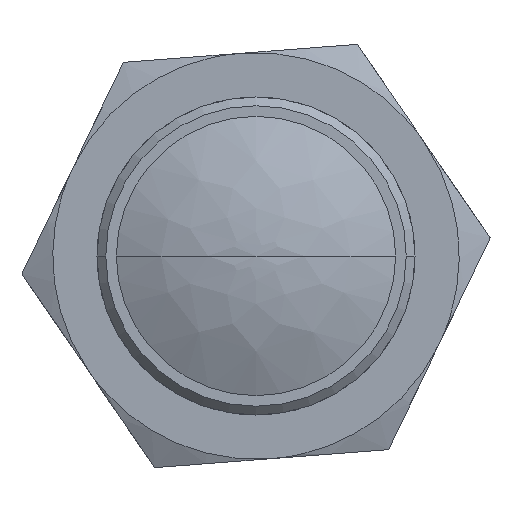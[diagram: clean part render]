
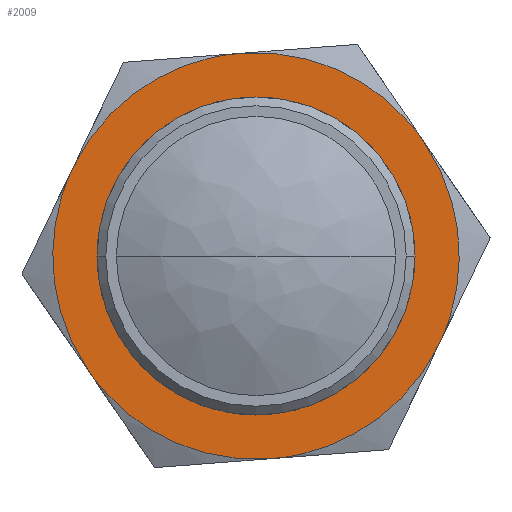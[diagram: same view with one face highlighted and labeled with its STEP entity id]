
A CAD part, left-side view. The second image highlights one B-rep face of the part: STEP entity #2009.
In plain terms, the highlighted planar face has unit normal (-1, 0, 0).
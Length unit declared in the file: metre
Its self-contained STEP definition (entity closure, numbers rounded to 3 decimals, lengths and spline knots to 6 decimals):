
#95 = EDGE_CURVE ( 'NONE', #577, #590, #1790, .T. ) ;
#111 = EDGE_CURVE ( 'NONE', #773, #457, #1897, .T. ) ;
#122 = ORIENTED_EDGE ( 'NONE', *, *, #95, .F. ) ;
#137 = AXIS2_PLACEMENT_3D ( 'NONE', #384, #1457, #540 ) ;
#145 = CARTESIAN_POINT ( 'NONE',  ( -0.0075, 0.008419, 0.023 ) ) ;
#159 = EDGE_CURVE ( 'NONE', #1753, #1993, #792, .T. ) ;
#171 = CIRCLE ( 'NONE', #927, 0.018 ) ;
#206 = ORIENTED_EDGE ( 'NONE', *, *, #1504, .F. ) ;
#220 = PLANE ( 'NONE',  #137 ) ;
#236 = FACE_BOUND ( 'NONE', #293, .T. ) ;
#249 = CARTESIAN_POINT ( 'NONE',  ( -0.0075, 0., 0.023 ) ) ;
#293 = EDGE_LOOP ( 'NONE', ( #1231, #304 ) ) ;
#304 = ORIENTED_EDGE ( 'NONE', *, *, #419, .F. ) ;
#310 = EDGE_CURVE ( 'NONE', #457, #577, #1638, .T. ) ;
#343 = CARTESIAN_POINT ( 'NONE',  ( -0.0075, 0., 0. ) ) ;
#345 = CARTESIAN_POINT ( 'NONE',  ( -0.0075, -0.015708, 0.018793 ) ) ;
#353 = EDGE_LOOP ( 'NONE', ( #206, #608, #122, #1021, #786, #1208 ) ) ;
#384 = CARTESIAN_POINT ( 'NONE',  ( -0.0075, -0.023276, 0.023276 ) ) ;
#395 = CARTESIAN_POINT ( 'NONE',  ( -0.0075, -0.019919, -0.0115 ) ) ;
#419 = EDGE_CURVE ( 'NONE', #1993, #1753, #171, .T. ) ;
#424 = VERTEX_POINT ( 'NONE', #1629 ) ;
#457 = VERTEX_POINT ( 'NONE', #1644 ) ;
#475 = CARTESIAN_POINT ( 'NONE',  ( -0.0075, 0., 0.023 ) ) ;
#494 = CARTESIAN_POINT ( 'NONE',  ( -0.0075, -0.019919, 0.0115 ) ) ;
#499 = DIRECTION ( 'NONE',  ( 0., 1., 0. ) ) ;
#540 = DIRECTION ( 'NONE',  ( 0., 0., -1. ) ) ;
#577 = VERTEX_POINT ( 'NONE', #249 ) ;
#590 = VERTEX_POINT ( 'NONE', #1082 ) ;
#608 = ORIENTED_EDGE ( 'NONE', *, *, #896, .F. ) ;
#635 = CARTESIAN_POINT ( 'NONE',  ( -0.0075, 0.008419, -0.023 ) ) ;
#702 = CARTESIAN_POINT ( 'NONE',  ( -0.0075, -0.008419, -0.023 ) ) ;
#721 = CARTESIAN_POINT ( 'NONE',  ( -0.0075, -0.024128, -0.004209 ) ) ;
#765 = CARTESIAN_POINT ( 'NONE',  ( -0.0075, 0.024128, 0.004209 ) ) ;
#773 = VERTEX_POINT ( 'NONE', #1795 ) ;
#782 = VERTEX_POINT ( 'NONE', #867 ) ;
#786 = ORIENTED_EDGE ( 'NONE', *, *, #111, .F. ) ;
#792 = CIRCLE ( 'NONE', #1217, 0.018 ) ;
#861 = DIRECTION ( 'NONE',  ( -1., 0., 0. ) ) ;
#867 = CARTESIAN_POINT ( 'NONE',  ( -0.0075, 0., -0.023 ) ) ;
#896 = EDGE_CURVE ( 'NONE', #590, #424, #1550, .T. ) ;
#927 = AXIS2_PLACEMENT_3D ( 'NONE', #1789, #861, #1960 ) ;
#939 = CARTESIAN_POINT ( 'NONE',  ( -0.0075, 0., 0.023 ) ) ;
#955 = CARTESIAN_POINT ( 'NONE',  ( -0.0075, 0.019919, -0.0115 ) ) ;
#1021 = ORIENTED_EDGE ( 'NONE', *, *, #310, .F. ) ;
#1082 = CARTESIAN_POINT ( 'NONE',  ( -0.0075, -0.019919, 0.0115 ) ) ;
#1107 =( BOUNDED_CURVE ( )  B_SPLINE_CURVE ( 3, ( #1722, #635, #1889, #955 ),
 .UNSPECIFIED., .F., .T. ) 
 B_SPLINE_CURVE_WITH_KNOTS ( ( 4, 4 ),
 ( 0., 0.023989 ),
 .UNSPECIFIED. ) 
 CURVE ( )  GEOMETRIC_REPRESENTATION_ITEM ( )  RATIONAL_B_SPLINE_CURVE ( ( 0.998, 0.909, 0.909, 0.998 ) ) 
 REPRESENTATION_ITEM ( '' )  );
#1169 = CARTESIAN_POINT ( 'NONE',  ( -0.0075, 0.018, 0. ) ) ;
#1178 =( BOUNDED_CURVE ( )  B_SPLINE_CURVE ( 3, ( #395, #1314, #702, #1797 ),
 .UNSPECIFIED., .F., .F. ) 
 B_SPLINE_CURVE_WITH_KNOTS ( ( 4, 4 ),
 ( 0., 0.023989 ),
 .UNSPECIFIED. ) 
 CURVE ( )  GEOMETRIC_REPRESENTATION_ITEM ( )  RATIONAL_B_SPLINE_CURVE ( ( 0.998, 0.909, 0.909, 0.998 ) ) 
 REPRESENTATION_ITEM ( '' )  );
#1208 = ORIENTED_EDGE ( 'NONE', *, *, #1529, .F. ) ;
#1217 = AXIS2_PLACEMENT_3D ( 'NONE', #343, #1414, #499 ) ;
#1231 = ORIENTED_EDGE ( 'NONE', *, *, #159, .F. ) ;
#1314 = CARTESIAN_POINT ( 'NONE',  ( -0.0075, -0.015709, -0.018791 ) ) ;
#1328 = CARTESIAN_POINT ( 'NONE',  ( -0.0075, -0.019919, 0.0115 ) ) ;
#1375 = CARTESIAN_POINT ( 'NONE',  ( -0.0075, 0.024128, -0.004209 ) ) ;
#1398 = CARTESIAN_POINT ( 'NONE',  ( -0.0075, 0.019919, -0.0115 ) ) ;
#1414 = DIRECTION ( 'NONE',  ( -1., 0., 0. ) ) ;
#1457 = DIRECTION ( 'NONE',  ( 1., 0., 0. ) ) ;
#1504 = EDGE_CURVE ( 'NONE', #424, #782, #1178, .T. ) ;
#1529 = EDGE_CURVE ( 'NONE', #782, #773, #1107, .T. ) ;
#1550 =( BOUNDED_CURVE ( )  B_SPLINE_CURVE ( 3, ( #1328, #1653, #721, #1816 ),
 .UNSPECIFIED., .F., .F. ) 
 B_SPLINE_CURVE_WITH_KNOTS ( ( 4, 4 ),
 ( 0., 0.023989 ),
 .UNSPECIFIED. ) 
 CURVE ( )  GEOMETRIC_REPRESENTATION_ITEM ( )  RATIONAL_B_SPLINE_CURVE ( ( 0.998, 0.909, 0.909, 0.998 ) ) 
 REPRESENTATION_ITEM ( '' )  );
#1629 = CARTESIAN_POINT ( 'NONE',  ( -0.0075, -0.019919, -0.0115 ) ) ;
#1638 =( BOUNDED_CURVE ( )  B_SPLINE_CURVE ( 3, ( #1918, #1741, #145, #939 ),
 .UNSPECIFIED., .F., .F. ) 
 B_SPLINE_CURVE_WITH_KNOTS ( ( 4, 4 ),
 ( 0., 0.023989 ),
 .UNSPECIFIED. ) 
 CURVE ( )  GEOMETRIC_REPRESENTATION_ITEM ( )  RATIONAL_B_SPLINE_CURVE ( ( 0.998, 0.909, 0.909, 0.998 ) ) 
 REPRESENTATION_ITEM ( '' )  );
#1644 = CARTESIAN_POINT ( 'NONE',  ( -0.0075, 0.019919, 0.0115 ) ) ;
#1653 = CARTESIAN_POINT ( 'NONE',  ( -0.0075, -0.024128, 0.004209 ) ) ;
#1691 = CARTESIAN_POINT ( 'NONE',  ( -0.0075, 0.019919, 0.0115 ) ) ;
#1722 = CARTESIAN_POINT ( 'NONE',  ( -0.0075, 0., -0.023 ) ) ;
#1741 = CARTESIAN_POINT ( 'NONE',  ( -0.0075, 0.015709, 0.018791 ) ) ;
#1753 = VERTEX_POINT ( 'NONE', #1169 ) ;
#1789 = CARTESIAN_POINT ( 'NONE',  ( -0.0075, 0., 0. ) ) ;
#1790 =( BOUNDED_CURVE ( )  B_SPLINE_CURVE ( 3, ( #475, #2036, #345, #494 ),
 .UNSPECIFIED., .F., .F. ) 
 B_SPLINE_CURVE_WITH_KNOTS ( ( 4, 4 ),
 ( 0., 0.023989 ),
 .UNSPECIFIED. ) 
 CURVE ( )  GEOMETRIC_REPRESENTATION_ITEM ( )  RATIONAL_B_SPLINE_CURVE ( ( 1., 0.91, 0.91, 0.998 ) ) 
 REPRESENTATION_ITEM ( '' )  );
#1795 = CARTESIAN_POINT ( 'NONE',  ( -0.0075, 0.019919, -0.0115 ) ) ;
#1797 = CARTESIAN_POINT ( 'NONE',  ( -0.0075, 0., -0.023 ) ) ;
#1816 = CARTESIAN_POINT ( 'NONE',  ( -0.0075, -0.019919, -0.0115 ) ) ;
#1889 = CARTESIAN_POINT ( 'NONE',  ( -0.0075, 0.015709, -0.018791 ) ) ;
#1896 = FACE_OUTER_BOUND ( 'NONE', #353, .T. ) ;
#1897 =( BOUNDED_CURVE ( )  B_SPLINE_CURVE ( 3, ( #1398, #1375, #765, #1691 ),
 .UNSPECIFIED., .F., .F. ) 
 B_SPLINE_CURVE_WITH_KNOTS ( ( 4, 4 ),
 ( 0., 0.023989 ),
 .UNSPECIFIED. ) 
 CURVE ( )  GEOMETRIC_REPRESENTATION_ITEM ( )  RATIONAL_B_SPLINE_CURVE ( ( 0.998, 0.909, 0.909, 0.998 ) ) 
 REPRESENTATION_ITEM ( '' )  );
#1918 = CARTESIAN_POINT ( 'NONE',  ( -0.0075, 0.019919, 0.0115 ) ) ;
#1960 = DIRECTION ( 'NONE',  ( 0., 1., 0. ) ) ;
#1968 = CARTESIAN_POINT ( 'NONE',  ( -0.0075, -0.018, 0. ) ) ;
#1993 = VERTEX_POINT ( 'NONE', #1968 ) ;
#2009 = ADVANCED_FACE ( 'NONE', ( #236, #1896 ), #220, .F. ) ;
#2036 = CARTESIAN_POINT ( 'NONE',  ( -0.0075, -0.008416, 0.023 ) ) ;
